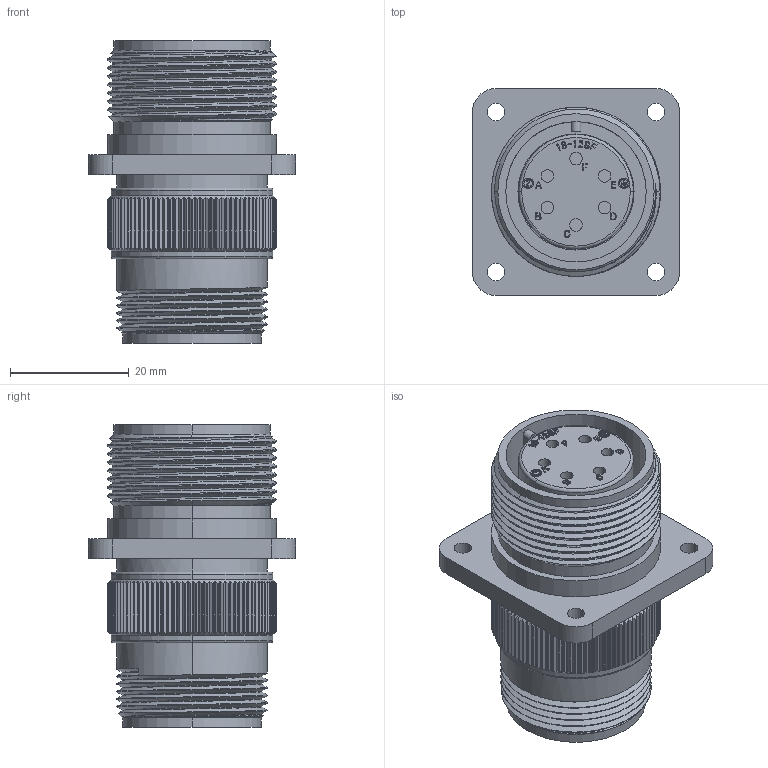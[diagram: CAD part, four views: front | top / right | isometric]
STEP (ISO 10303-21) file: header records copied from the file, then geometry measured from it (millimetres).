
FILE_DESCRIPTION (( 'STEP AP203' ), '1' );
FILE_NAME ('DMS3100A18-12S.STEP', '2017-07-18T01:02:12', ( '' ), ( '' ), 'SwSTEP 2.0', 'SolidWorks 2015', '' );
FILE_SCHEMA (( 'CONFIG_CONTROL_DESIGN' ));
Length unit declared in the file: millimetre
Products named in the file (1): DMS3100A18-12S
Bounding box: 34.92 x 34.92 x 51.06 mm (x, y, z)
Volume: 21608.6 mm3; surface area: 14512.5 mm2
Topology: 1 solids, 1 shells, 1457 faces, 4117 edges, 2735 vertices
Faces by surface type: cylinder 609, plane 563, bspline 249, torus 18, cone 18
Entity records: 62252 total; most frequent: CARTESIAN_POINT 28117, ORIENTED_EDGE 8234, DIRECTION 5323, EDGE_CURVE 4117, VERTEX_POINT 2735, LINE 1893, VECTOR 1893, AXIS2_PLACEMENT_3D 1715
